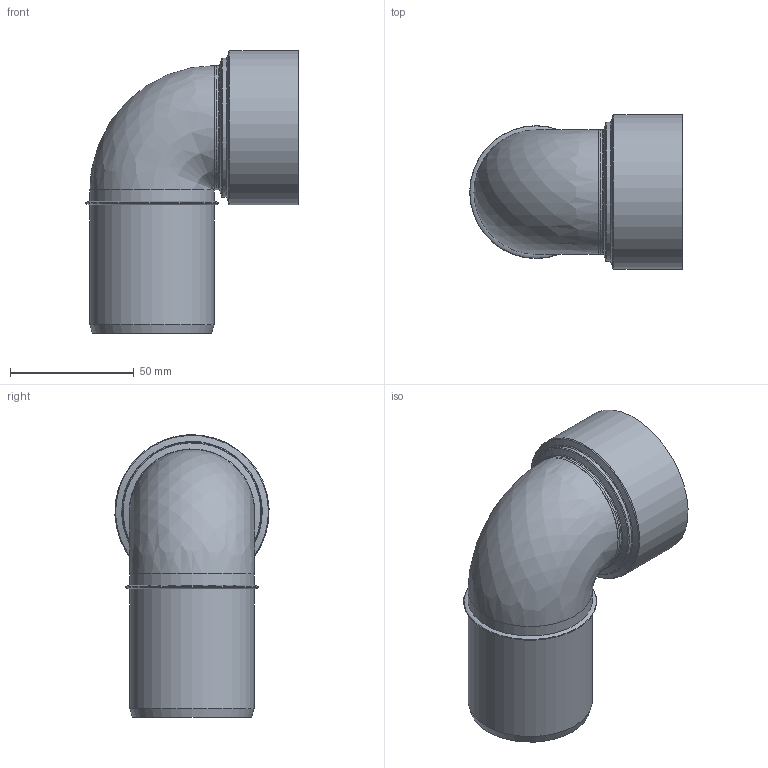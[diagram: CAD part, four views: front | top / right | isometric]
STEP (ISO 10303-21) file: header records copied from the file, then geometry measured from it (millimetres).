
FILE_DESCRIPTION(/* description */ (''),/* implementation_level */ '2;1');
FILE_NAME(/* name */ 'Z:\Geberit\Export\NewStep\390284.stp',/* time_stamp */ '2014-04-02T08:10:47+02:00',/* author */ ('ML'),/* organization */ (''),/* preprocessor_version */ 'ST-DEVELOPER v15.2',/* originating_system */ 'Autodesk Inventor 2014',/* authorisation */ '');
FILE_SCHEMA (('AUTOMOTIVE_DESIGN { 1 0 10303 214 3 1 1 }'));
Length unit declared in the file: millimetre
Products named in the file (3): 861475; 861472Muffe; 390284
Bounding box: 85.83 x 62.18 x 114.01 mm (x, y, z)
Volume: 44230.2 mm3; surface area: 44871.4 mm2
Topology: 2 solids, 2 shells, 28 faces, 55 edges, 29 vertices
Faces by surface type: cylinder 10, torus 9, cone 4, plane 4, bspline 1
Full cylindrical faces by diameter (mm): 46.15 x3, 50.15 x4, 56.2 x1, 58.25 x1, 62.25 x1
Entity records: 732 total; most frequent: CARTESIAN_POINT 168, DIRECTION 120, AXIS2_PLACEMENT_3D 60, ORIENTED_EDGE 56, EDGE_LOOP 55, FACE_BOUND 30, STYLED_ITEM 30, CIRCLE 28
